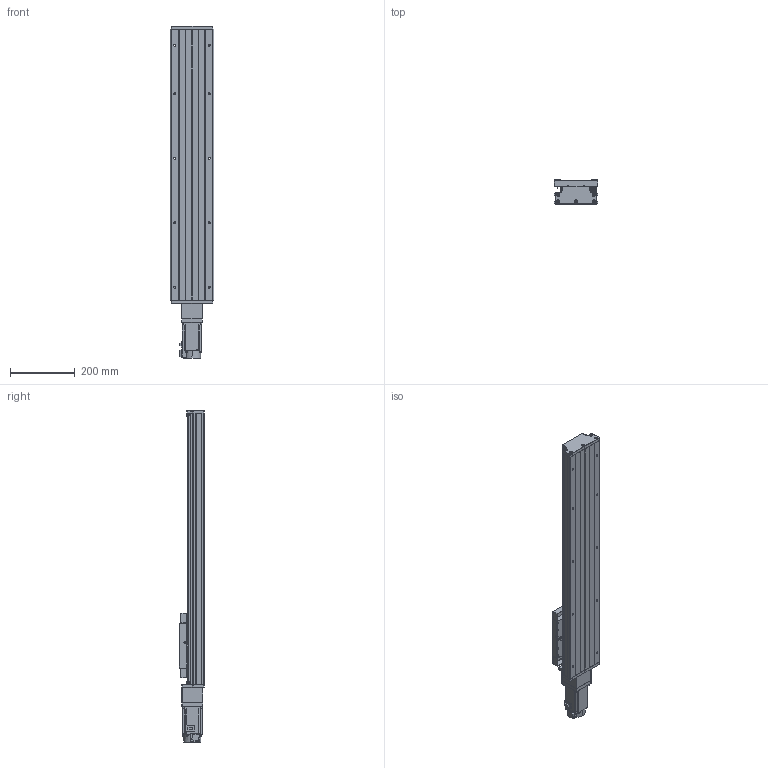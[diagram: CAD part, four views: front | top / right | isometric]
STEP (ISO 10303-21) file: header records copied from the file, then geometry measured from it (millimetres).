
FILE_DESCRIPTION (( 'STEP AP203' ), '1' );
FILE_NAME ('GTH14-600-BC-M40-C4.step', '2023-06-30T08:34:46', ( '微软用户' ), ( '微软中国' ), 'SwSTEP 2.0', 'SolidWorks 2020', '' );
FILE_SCHEMA (( 'CONFIG_CONTROL_DESIGN' ));
Length unit declared in the file: millimetre
Products named in the file (20): CTHA60-016; CTHA86-027-1; GTH14-005; GBT 70.1-M3℅5; HG-KN43J-S100; GB1155-6X6; GBT77-2000 M3×3; GBT 70.3-M3℅8; GBT70.1 M5℅16; GTH14-031; GTH14-600-BC-M40-C4; GBT 70.2-M3¡Á5_M3¡Á6; す晦芛蹟隊 M3℅5; GTH14-001_600; CTHA60-017; CTHA86-006-1_M40; GTH14-002_GTH14-002; EE_SX911P_R; CTHA86-013; GTH14-004
Assembly tree (57 placements, depth 2):
  GTH14-600-BC-M40-C4
    GTH14-001_600
    GTH14-002_GTH14-002
    GTH14-004
    GTH14-005
    GB1155-6X6  x2
    GBT70.1 M5℅16  x10
    GBT 70.2-M3¡Á5_M3¡Á6  x8
    CTHA60-017  x3
    EE_SX911P_R  x3
    CTHA60-016  x2
    GBT 70.1-M3℅5  x6
    GBT77-2000 M3×3  x6
    GTH14-031
    す晦芛蹟隊 M3℅5  x6
    CTHA86-006-1_M40
    CTHA86-013
    CTHA86-027-1
    HG-KN43J-S100
    GBT 70.3-M3℅8  x2
Bounding box: 135 x 78 x 1028.7 mm (x, y, z)
Volume: 5130202.2 mm3; surface area: 820764.9 mm2
Topology: 60 solids, 60 shells, 2414 faces, 5757 edges, 3554 vertices
Faces by surface type: plane 1302, cylinder 648, cone 304, torus 120, sphere 20, bspline 20
Entity records: 44420 total; most frequent: CARTESIAN_POINT 9897, DIRECTION 6516, ORIENTED_EDGE 6398, EDGE_CURVE 3199, AXIS2_PLACEMENT_3D 2217, LINE 2082, VECTOR 2082, VERTEX_POINT 2022
